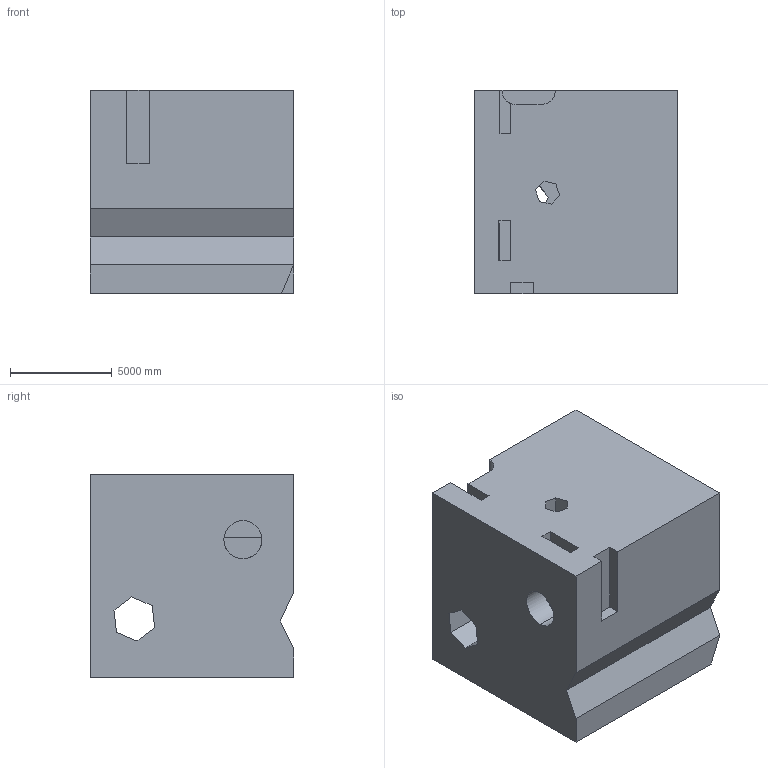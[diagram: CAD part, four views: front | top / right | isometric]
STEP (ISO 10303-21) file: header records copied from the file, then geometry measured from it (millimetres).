
FILE_DESCRIPTION (( 'STEP AP203' ), '1' );
FILE_NAME ('198.STEP', '2022-09-06T16:30:46', ( 'user' ), ( '' ), 'SwSTEP 2.0', 'SolidWorks 2021', '' );
FILE_SCHEMA (( 'CONFIG_CONTROL_DESIGN' ));
Length unit declared in the file: centimetre
Products named in the file (1): 198
Bounding box: 10000 x 10000 x 10000 mm (x, y, z)
Volume: 917835284584.4 mm3; surface area: 746066286 mm2
Topology: 1 solids, 1 shells, 51 faces, 146 edges, 97 vertices
Faces by surface type: plane 47, cylinder 4
Entity records: 1732 total; most frequent: CARTESIAN_POINT 295, ORIENTED_EDGE 292, DIRECTION 261, EDGE_CURVE 146, VECTOR 135, LINE 135, VERTEX_POINT 97, AXIS2_PLACEMENT_3D 63
